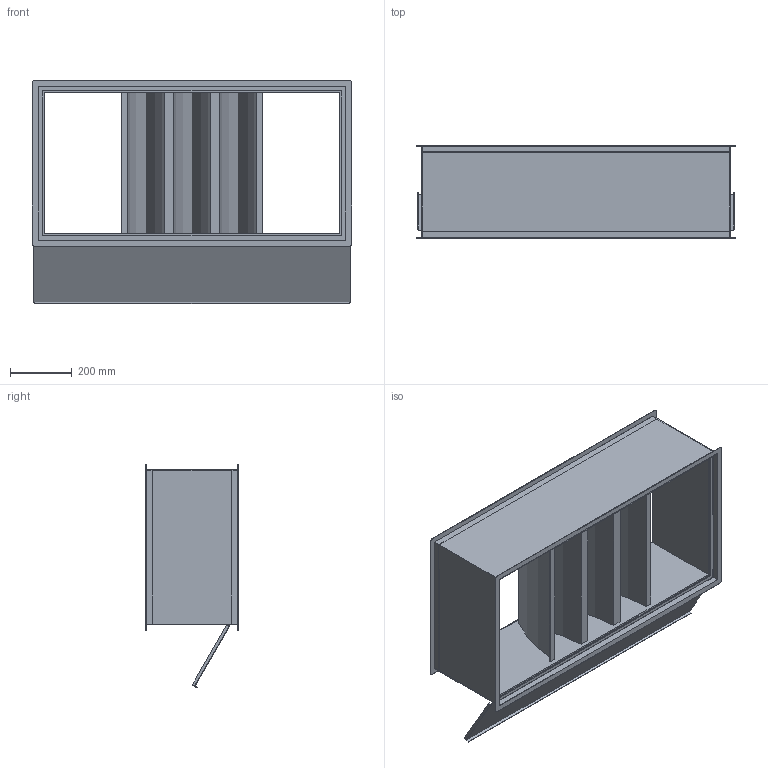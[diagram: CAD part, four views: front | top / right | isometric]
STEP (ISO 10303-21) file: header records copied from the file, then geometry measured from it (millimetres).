
FILE_DESCRIPTION(/* description */ (''),/* implementation_level */ '2;1');
FILE_NAME(/* name */ 'Z:\Output\KLF 100-50 G4-08671-002.stp',/* time_stamp */ '2017-05-04T18:44:41+02:00',/* author */ ('Engineering1'),/* organization */ (''),/* preprocessor_version */ 'ST-DEVELOPER v16.5',/* originating_system */ 'Autodesk Inventor 2017',/* authorisation */ '');
FILE_SCHEMA (('AUTOMOTIVE_DESIGN { 1 0 10303 214 3 1 1 }'));
Length unit declared in the file: millimetre
Products named in the file (1): VS-1
Bounding box: 1040 x 300 x 726.92 mm (x, y, z)
Volume: 12958043.7 mm3; surface area: 5055954 mm2
Topology: 1 solids, 1 shells, 105 faces, 285 edges, 188 vertices
Faces by surface type: plane 85, cylinder 20
Entity records: 3317 total; most frequent: CARTESIAN_POINT 579, ORIENTED_EDGE 572, DIRECTION 537, EDGE_CURVE 285, LINE 245, VECTOR 245, VERTEX_POINT 188, AXIS2_PLACEMENT_3D 146
